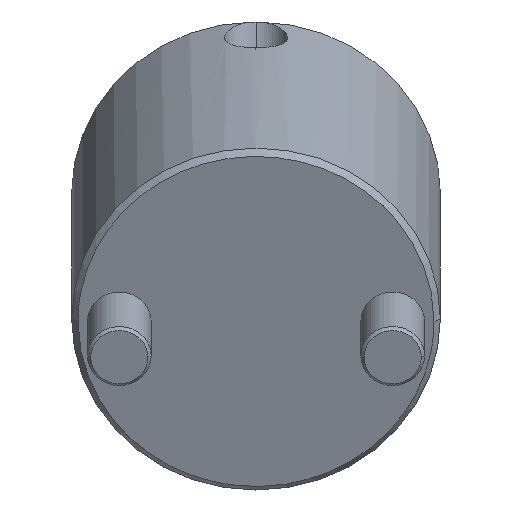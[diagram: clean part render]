
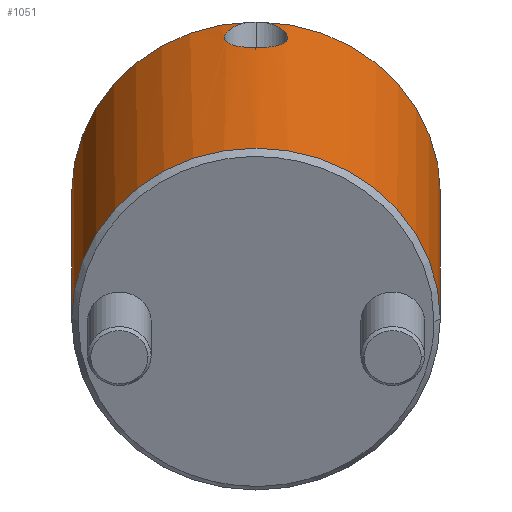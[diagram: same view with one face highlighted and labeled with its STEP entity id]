
A CAD part, front view. The second image highlights one B-rep face of the part: STEP entity #1051.
In plain terms, the highlighted cylindrical face has radius 29 mm (diameter 58 mm), a partial arc.
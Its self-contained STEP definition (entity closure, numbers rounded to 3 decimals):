
#778=CARTESIAN_POINT('Vertex',(0.,29.,1.)) ;
#781=CARTESIAN_POINT('Axis2P3D Location',(0.,0.,1.)) ;
#785=CARTESIAN_POINT('Vertex',(0.,-29.,1.)) ;
#937=CARTESIAN_POINT('Axis2P3D Location',(0.,0.,-2.75)) ;
#942=CARTESIAN_POINT('Axis2P3D Location',(0.,0.,54.)) ;
#946=CARTESIAN_POINT('Vertex',(28.994,-0.6,54.)) ;
#948=CARTESIAN_POINT('Vertex',(0.,-29.,54.)) ;
#951=CARTESIAN_POINT('Line Origine',(0.,-29.,-2.75)) ;
#956=CARTESIAN_POINT('Line Origine',(0.,29.,-2.75)) ;
#960=CARTESIAN_POINT('Vertex',(0.,29.,54.)) ;
#963=CARTESIAN_POINT('Axis2P3D Location',(0.,0.,54.)) ;
#967=CARTESIAN_POINT('Vertex',(28.994,0.6,54.)) ;
#971=CARTESIAN_POINT('Control Point',(28.994,0.6,54.)) ;
#972=CARTESIAN_POINT('Control Point',(28.985,1.008,53.943)) ;
#973=CARTESIAN_POINT('Control Point',(28.97,1.41,53.839)) ;
#974=CARTESIAN_POINT('Control Point',(28.948,1.802,53.688)) ;
#975=CARTESIAN_POINT('Control Point',(28.906,2.374,53.389)) ;
#976=CARTESIAN_POINT('Control Point',(28.856,2.896,52.996)) ;
#977=CARTESIAN_POINT('Control Point',(28.838,3.065,52.854)) ;
#978=CARTESIAN_POINT('Control Point',(28.793,3.477,52.468)) ;
#979=CARTESIAN_POINT('Control Point',(28.745,3.843,52.022)) ;
#980=CARTESIAN_POINT('Control Point',(28.717,4.046,51.733)) ;
#981=CARTESIAN_POINT('Control Point',(28.664,4.406,51.121)) ;
#982=CARTESIAN_POINT('Control Point',(28.621,4.673,50.461)) ;
#983=CARTESIAN_POINT('Control Point',(28.603,4.782,50.123)) ;
#984=CARTESIAN_POINT('Control Point',(28.575,4.948,49.432)) ;
#985=CARTESIAN_POINT('Control Point',(28.564,5.011,48.723)) ;
#986=CARTESIAN_POINT('Control Point',(28.563,5.015,48.368)) ;
#987=CARTESIAN_POINT('Control Point',(28.57,4.978,47.786)) ;
#988=CARTESIAN_POINT('Control Point',(28.588,4.869,47.223)) ;
#989=CARTESIAN_POINT('Control Point',(28.598,4.815,47.003)) ;
#990=CARTESIAN_POINT('Control Point',(28.62,4.683,46.572)) ;
#991=CARTESIAN_POINT('Control Point',(28.648,4.509,46.159)) ;
#992=CARTESIAN_POINT('Control Point',(28.663,4.411,45.958)) ;
#993=CARTESIAN_POINT('Control Point',(28.695,4.196,45.571)) ;
#994=CARTESIAN_POINT('Control Point',(28.731,3.943,45.212)) ;
#995=CARTESIAN_POINT('Control Point',(28.75,3.806,45.04)) ;
#996=CARTESIAN_POINT('Control Point',(28.806,3.372,44.548)) ;
#997=CARTESIAN_POINT('Control Point',(28.861,2.864,44.135)) ;
#998=CARTESIAN_POINT('Control Point',(28.896,2.496,43.899)) ;
#999=CARTESIAN_POINT('Control Point',(28.95,1.794,43.551)) ;
#1000=CARTESIAN_POINT('Control Point',(28.984,1.039,43.348)) ;
#1001=CARTESIAN_POINT('Control Point',(28.995,0.694,43.286)) ;
#1002=CARTESIAN_POINT('Control Point',(29.,0.348,43.256)) ;
#1003=CARTESIAN_POINT('Control Point',(29.,0.,43.256)) ;
#1004=CARTESIAN_POINT('Vertex',(29.,0.,43.256)) ;
#1008=CARTESIAN_POINT('Control Point',(29.,0.,43.256)) ;
#1009=CARTESIAN_POINT('Control Point',(29.,-0.217,43.256)) ;
#1010=CARTESIAN_POINT('Control Point',(28.998,-0.433,43.268)) ;
#1011=CARTESIAN_POINT('Control Point',(28.994,-0.648,43.291)) ;
#1012=CARTESIAN_POINT('Control Point',(28.979,-1.182,43.38)) ;
#1013=CARTESIAN_POINT('Control Point',(28.953,-1.701,43.54)) ;
#1014=CARTESIAN_POINT('Control Point',(28.933,-2.002,43.661)) ;
#1015=CARTESIAN_POINT('Control Point',(28.896,-2.487,43.905)) ;
#1016=CARTESIAN_POINT('Control Point',(28.852,-2.933,44.213)) ;
#1017=CARTESIAN_POINT('Control Point',(28.834,-3.105,44.346)) ;
#1018=CARTESIAN_POINT('Control Point',(28.778,-3.599,44.773)) ;
#1019=CARTESIAN_POINT('Control Point',(28.722,-4.021,45.282)) ;
#1020=CARTESIAN_POINT('Control Point',(28.686,-4.265,45.65)) ;
#1021=CARTESIAN_POINT('Control Point',(28.638,-4.571,46.246)) ;
#1022=CARTESIAN_POINT('Control Point',(28.603,-4.782,46.886)) ;
#1023=CARTESIAN_POINT('Control Point',(28.593,-4.841,47.105)) ;
#1024=CARTESIAN_POINT('Control Point',(28.568,-4.986,47.778)) ;
#1025=CARTESIAN_POINT('Control Point',(28.561,-5.029,48.48)) ;
#1026=CARTESIAN_POINT('Control Point',(28.564,-5.008,48.955)) ;
#1027=CARTESIAN_POINT('Control Point',(28.591,-4.856,50.013)) ;
#1028=CARTESIAN_POINT('Control Point',(28.653,-4.482,51.003)) ;
#1029=CARTESIAN_POINT('Control Point',(28.697,-4.202,51.538)) ;
#1030=CARTESIAN_POINT('Control Point',(28.764,-3.725,52.213)) ;
#1031=CARTESIAN_POINT('Control Point',(28.829,-3.155,52.773)) ;
#1032=CARTESIAN_POINT('Control Point',(28.846,-2.988,52.919)) ;
#1033=CARTESIAN_POINT('Control Point',(28.881,-2.643,53.192)) ;
#1034=CARTESIAN_POINT('Control Point',(28.912,-2.275,53.423)) ;
#1035=CARTESIAN_POINT('Control Point',(28.926,-2.086,53.527)) ;
#1036=CARTESIAN_POINT('Control Point',(28.953,-1.685,53.721)) ;
#1037=CARTESIAN_POINT('Control Point',(28.973,-1.269,53.863)) ;
#1038=CARTESIAN_POINT('Control Point',(28.982,-1.047,53.923)) ;
#1039=CARTESIAN_POINT('Control Point',(28.989,-0.825,53.969)) ;
#1040=CARTESIAN_POINT('Control Point',(28.994,-0.6,54.)) ;
#782=DIRECTION('Axis2P3D Direction',(0.,0.,1.)) ;
#938=DIRECTION('Axis2P3D Direction',(0.,-0.,1.)) ;
#939=DIRECTION('Axis2P3D XDirection',(0.,-1.,0.)) ;
#943=DIRECTION('Axis2P3D Direction',(0.,-0.,1.)) ;
#952=DIRECTION('Vector Direction',(0.,0.,1.)) ;
#957=DIRECTION('Vector Direction',(0.,0.,1.)) ;
#964=DIRECTION('Axis2P3D Direction',(0.,-0.,1.)) ;
#783=AXIS2_PLACEMENT_3D('Circle Axis2P3D',#781,#782,$) ;
#940=AXIS2_PLACEMENT_3D('Cylinder Axis2P3D',#937,#938,#939) ;
#944=AXIS2_PLACEMENT_3D('Circle Axis2P3D',#942,#943,$) ;
#965=AXIS2_PLACEMENT_3D('Circle Axis2P3D',#963,#964,$) ;
#1043=ORIENTED_EDGE('',*,*,#950,.T.) ;
#1044=ORIENTED_EDGE('',*,*,#955,.T.) ;
#1045=ORIENTED_EDGE('',*,*,#787,.F.) ;
#1046=ORIENTED_EDGE('',*,*,#962,.F.) ;
#1047=ORIENTED_EDGE('',*,*,#969,.T.) ;
#1048=ORIENTED_EDGE('',*,*,#1006,.T.) ;
#1049=ORIENTED_EDGE('',*,*,#1041,.T.) ;
#953=VECTOR('Line Direction',#952,1.) ;
#958=VECTOR('Line Direction',#957,1.) ;
#1051=ADVANCED_FACE('MANIFOLD_SOLID_BREP #1169',(#1050),#941,.T.) ;
#970=B_SPLINE_CURVE_WITH_KNOTS('',5,(#971,#972,#973,#974,#975,#976,#977,#978,#979,#980,#981,#982,#983,#984,#985,#986,#987,#988,#989,#990,#991,#992,#993,#994,#995,#996,#997,#998,#999,#1000,#1001,#1002,#1003),.UNSPECIFIED.,.F.,.U.,(6,3,3,3,3,3,3,3,3,3,6),(0.,3.108,4.689,7.088,9.524,11.908,13.487,15.066,16.639,19.78,22.301),.UNSPECIFIED.) ;
#1007=B_SPLINE_CURVE_WITH_KNOTS('',5,(#1008,#1009,#1010,#1011,#1012,#1013,#1014,#1015,#1016,#1017,#1018,#1019,#1020,#1021,#1022,#1023,#1024,#1025,#1026,#1027,#1028,#1029,#1030,#1031,#1032,#1033,#1034,#1035,#1036,#1037,#1038,#1039,#1040),.UNSPECIFIED.,.F.,.U.,(6,3,3,3,3,3,3,3,3,3,6),(0.,1.571,3.927,5.495,8.649,10.224,13.413,17.443,19.027,20.593,22.304),.UNSPECIFIED.) ;
#784=CIRCLE('generated circle',#783,29.) ;
#945=CIRCLE('generated circle',#944,29.) ;
#966=CIRCLE('generated circle',#965,29.) ;
#941=CYLINDRICAL_SURFACE('generated cylinder',#940,29.) ;
#787=EDGE_CURVE('',#779,#786,#784,.F.) ;
#950=EDGE_CURVE('',#947,#949,#945,.F.) ;
#955=EDGE_CURVE('',#949,#786,#954,.F.) ;
#962=EDGE_CURVE('',#961,#779,#959,.F.) ;
#969=EDGE_CURVE('',#961,#968,#966,.F.) ;
#1006=EDGE_CURVE('',#968,#1005,#970,.T.) ;
#1041=EDGE_CURVE('',#1005,#947,#1007,.T.) ;
#1042=EDGE_LOOP('',(#1043,#1044,#1045,#1046,#1047,#1048,#1049)) ;
#1050=FACE_OUTER_BOUND('',#1042,.T.) ;
#954=LINE('Line',#951,#953) ;
#959=LINE('Line',#956,#958) ;
#779=VERTEX_POINT('',#778) ;
#786=VERTEX_POINT('',#785) ;
#947=VERTEX_POINT('',#946) ;
#949=VERTEX_POINT('',#948) ;
#961=VERTEX_POINT('',#960) ;
#968=VERTEX_POINT('',#967) ;
#1005=VERTEX_POINT('',#1004) ;
